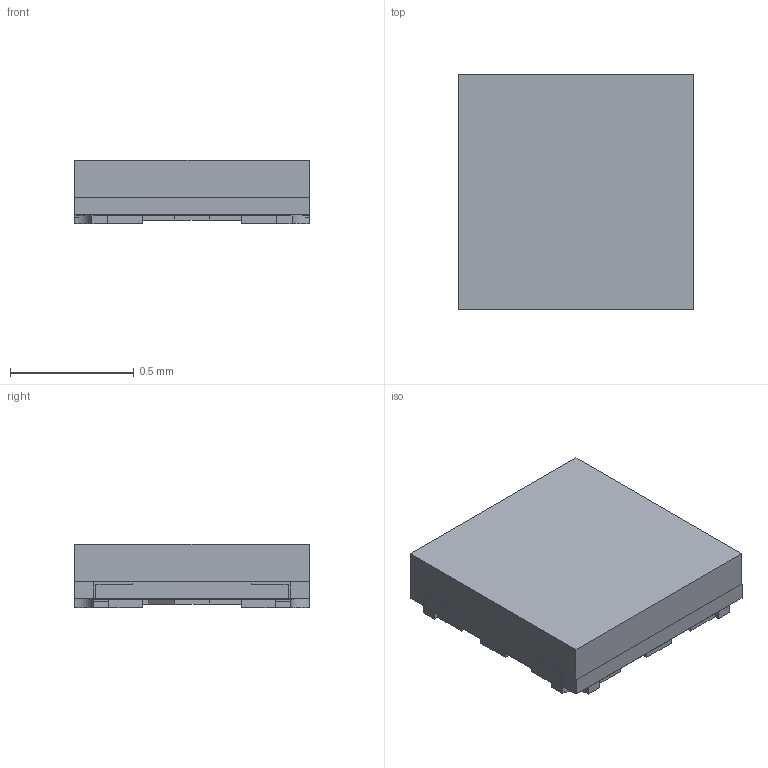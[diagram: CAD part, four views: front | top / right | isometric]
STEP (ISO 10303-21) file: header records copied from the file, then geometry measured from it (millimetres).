
FILE_DESCRIPTION(('FreeCAD Model'),'2;1');
FILE_NAME('Open CASCADE Shape Model','2026-04-02T15:24:28',('Author'),( ''),'Open CASCADE STEP processor 7.8','FreeCAD','Unknown');
FILE_SCHEMA(('AP242_MANAGED_MODEL_BASED_3D_ENGINEERING_MIM_LF. {1 0 10303 442 1 1 4 }'));
Length unit declared in the file: millimetre
Products named in the file (16): D_Wurth_WL_SFCC_0404superflat_temp; Base_transformed; Cover_transformed; Contacts_transformed; Contacts001_transformed; Contacts002_transformed; Contacts003_transformed; Polarity mark_transformed; Resign_transformed; Clips 1_transformed; Clips 002_transformed; Clips 004_transformed; Clips 005_transformed; LEDs_transformed; LEDs001_transformed; LEDs002_transformed
Assembly tree (15 placements, depth 2):
  D_Wurth_WL_SFCC_0404superflat_temp
    Base_transformed
    Cover_transformed
    Contacts_transformed
    Contacts001_transformed
    Contacts002_transformed
    Contacts003_transformed
    Polarity mark_transformed
    Resign_transformed
    Clips 1_transformed
    Clips 002_transformed
    Clips 004_transformed
    Clips 005_transformed
    LEDs_transformed
    LEDs001_transformed
    LEDs002_transformed
Bounding box: 0.95 x 0.95 x 0.26 mm (x, y, z)
Volume: 0.2 mm3; surface area: 7.3 mm2
Topology: 15 solids, 15 shells, 161 faces, 392 edges, 262 vertices
Faces by surface type: bspline 161
Entity records: 4669 total; most frequent: CARTESIAN_POINT 1770, ORIENTED_EDGE 784, EDGE_CURVE 392, B_SPLINE_CURVE_WITH_KNOTS 364, VERTEX_POINT 262, FACE_BOUND 164, EDGE_LOOP 164, ADVANCED_FACE 161
